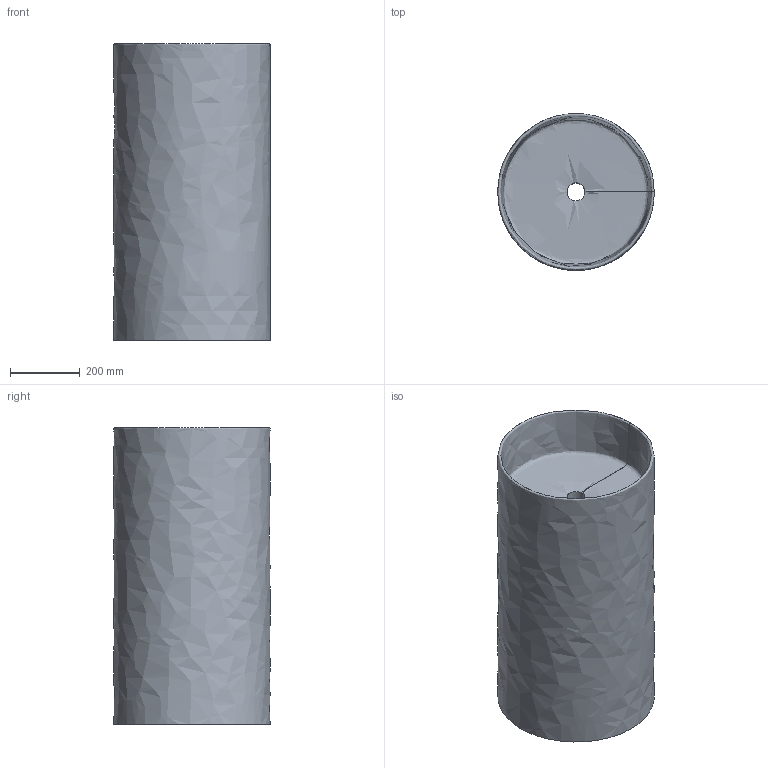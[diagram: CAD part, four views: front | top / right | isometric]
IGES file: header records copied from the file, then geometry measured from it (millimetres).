
Global section: file name: C:\Users\DE NITTO FULVIO\Desktop\Nic\2017\Maggio\Collezione Ovvio\Ovvio Freestanding\Modello 3D\Freestanding.igs; native system: Rhinoceros ( Oct 24 2012 ); preprocessor: Trout Lake IGES 012 Oct 24 2012; date: 170505.152257; units: millimetre
Bounding box: 448 x 448 x 850 mm (x, y, z)
Surface area: 1633922.8 mm2 (no closed solid volume)
Topology: 0 solids, 0 shells, 2 faces, 8 edges, 4 vertices
Faces by surface type: bspline 2
